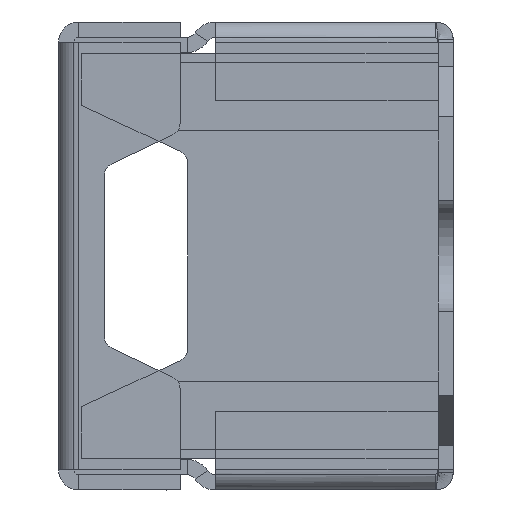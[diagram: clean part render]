
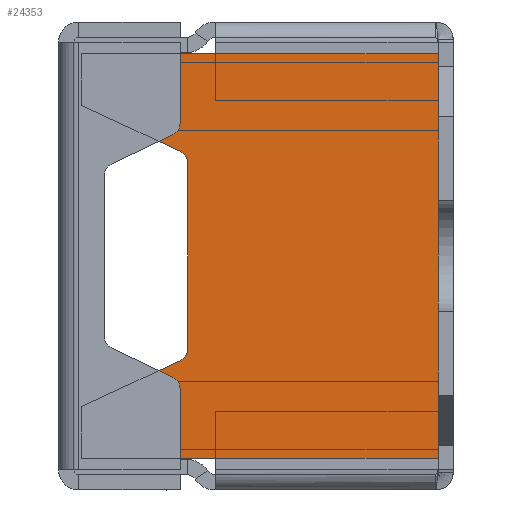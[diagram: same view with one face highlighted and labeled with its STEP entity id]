
A CAD part, left-side view. The second image highlights one B-rep face of the part: STEP entity #24353.
In plain terms, the highlighted planar face has unit normal (-1, 0, 0) as drawn and (0, 0, 1) by its records, which use the part's own axes.
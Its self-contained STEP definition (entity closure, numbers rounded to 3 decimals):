
#23818=CARTESIAN_POINT('',(-3.681,3.35,2.1));
#23819=DIRECTION('',(0.,0.,-1.));
#23820=DIRECTION('',(0.,-1.,0.));
#23821=AXIS2_PLACEMENT_3D('',#23818,#23819,#23820);
#23836=CARTESIAN_POINT('',(3.681,3.35,2.1));
#23837=DIRECTION('',(0.,0.,-1.));
#23838=DIRECTION('',(0.907,-0.422,0.));
#23839=AXIS2_PLACEMENT_3D('',#23836,#23837,#23838);
#23878=DIRECTION('',(1.,0.,0.));
#23879=VECTOR('',#23878,7.362);
#23880=CARTESIAN_POINT('',(-3.681,2.85,2.1));
#23881=LINE('',#23880,#23879);
#23882=DIRECTION('',(0.422,0.907,0.));
#23883=VECTOR('',#23882,4.313);
#23884=CARTESIAN_POINT('',(4.134,3.139,2.1));
#23885=LINE('',#23884,#23883);
#23886=DIRECTION('',(-1.,0.,0.));
#23887=VECTOR('',#23886,2.047);
#23888=CARTESIAN_POINT('',(8.,7.05,2.1));
#23889=LINE('',#23888,#23887);
#23890=DIRECTION('',(0.,1.,0.));
#23891=VECTOR('',#23890,14.1);
#23892=CARTESIAN_POINT('',(8.,-7.05,2.1));
#23893=LINE('',#23892,#23891);
#23894=DIRECTION('',(1.,0.,0.));
#23895=VECTOR('',#23894,16.);
#23896=CARTESIAN_POINT('',(-8.,-7.05,2.1));
#23897=LINE('',#23896,#23895);
#23898=DIRECTION('',(0.,-1.,0.));
#23899=VECTOR('',#23898,14.1);
#23900=CARTESIAN_POINT('',(-8.,7.05,2.1));
#23901=LINE('',#23900,#23899);
#23902=DIRECTION('',(-1.,0.,0.));
#23903=VECTOR('',#23902,2.047);
#23904=CARTESIAN_POINT('',(-5.953,7.05,2.1));
#23905=LINE('',#23904,#23903);
#23906=DIRECTION('',(0.422,-0.907,0.));
#23907=VECTOR('',#23906,4.313);
#23908=CARTESIAN_POINT('',(-5.953,7.05,2.1));
#23909=LINE('',#23908,#23907);
#24068=CARTESIAN_POINT('',(-8.,7.05,2.1));
#24069=CARTESIAN_POINT('',(-8.,-7.05,2.1));
#24070=VERTEX_POINT('',#24068);
#24071=VERTEX_POINT('',#24069);
#24072=CARTESIAN_POINT('',(8.,-7.05,2.1));
#24073=VERTEX_POINT('',#24072);
#24074=CARTESIAN_POINT('',(8.,7.05,2.1));
#24075=VERTEX_POINT('',#24074);
#24080=CARTESIAN_POINT('',(5.953,7.05,2.1));
#24081=VERTEX_POINT('',#24080);
#24082=CARTESIAN_POINT('',(-5.953,7.05,2.1));
#24083=VERTEX_POINT('',#24082);
#24084=CARTESIAN_POINT('',(-3.681,2.85,2.1));
#24086=VERTEX_POINT('',#24084);
#24088=CARTESIAN_POINT('',(-4.134,3.139,2.1));
#24090=VERTEX_POINT('',#24088);
#24092=CARTESIAN_POINT('',(4.134,3.139,2.1));
#24094=VERTEX_POINT('',#24092);
#24096=CARTESIAN_POINT('',(3.681,2.85,2.1));
#24098=VERTEX_POINT('',#24096);
#24333=CARTESIAN_POINT('',(0.,0.,2.1));
#24334=DIRECTION('',(0.,0.,1.));
#24335=DIRECTION('',(1.,0.,0.));
#24336=AXIS2_PLACEMENT_3D('',#24333,#24334,#24335);
#24337=PLANE('',#24336);
#24338=ORIENTED_EDGE('',*,*,#24220,.T.);
#24339=ORIENTED_EDGE('',*,*,#24232,.F.);
#24340=ORIENTED_EDGE('',*,*,#24254,.T.);
#24341=ORIENTED_EDGE('',*,*,#24280,.F.);
#24343=ORIENTED_EDGE('',*,*,#24342,.F.);
#24345=ORIENTED_EDGE('',*,*,#24344,.F.);
#24347=ORIENTED_EDGE('',*,*,#24346,.F.);
#24348=ORIENTED_EDGE('',*,*,#24295,.F.);
#24349=ORIENTED_EDGE('',*,*,#24184,.T.);
#24350=ORIENTED_EDGE('',*,*,#24204,.F.);
#24351=EDGE_LOOP('',(#24338,#24339,#24340,#24341,#24343,#24345,#24347,#24348,
#24349,#24350));
#24352=FACE_OUTER_BOUND('',#24351,.F.);
#24353=ADVANCED_FACE('',(#24352),#24337,.T.);
#23822=CIRCLE('',#23821,0.5);
#23840=CIRCLE('',#23839,0.5);
#24184=EDGE_CURVE('',#24083,#24090,#23909,.T.);
#24204=EDGE_CURVE('',#24086,#24090,#23822,.T.);
#24220=EDGE_CURVE('',#24086,#24098,#23881,.T.);
#24232=EDGE_CURVE('',#24094,#24098,#23840,.T.);
#24254=EDGE_CURVE('',#24094,#24081,#23885,.T.);
#24280=EDGE_CURVE('',#24075,#24081,#23889,.T.);
#24295=EDGE_CURVE('',#24083,#24070,#23905,.T.);
#24342=EDGE_CURVE('',#24073,#24075,#23893,.T.);
#24344=EDGE_CURVE('',#24071,#24073,#23897,.T.);
#24346=EDGE_CURVE('',#24070,#24071,#23901,.T.);
